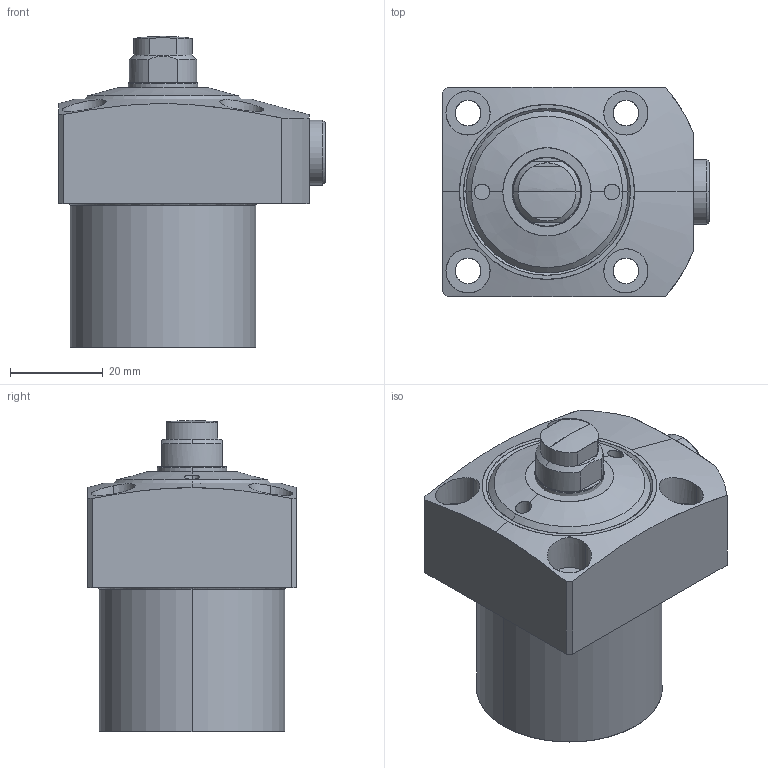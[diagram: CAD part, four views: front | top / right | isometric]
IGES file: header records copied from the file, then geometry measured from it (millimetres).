
Start section: SolidWorks IGES file using analytic representation for surfaces
Global section: file name: F:\clasys\LC0402-C.IGS; native system: SolidWorks 2010; preprocessor: SolidWorks 2010; author: nijil; date: 130720.233905; units: millimetre
Bounding box: 57.5 x 45 x 67 mm (x, y, z)
Surface area: 15465.8 mm2 (no closed solid volume)
Topology: 0 solids, 0 shells, 84 faces, 1637 edges, 1636 vertices
Faces by surface type: revolution 52, bspline 32
